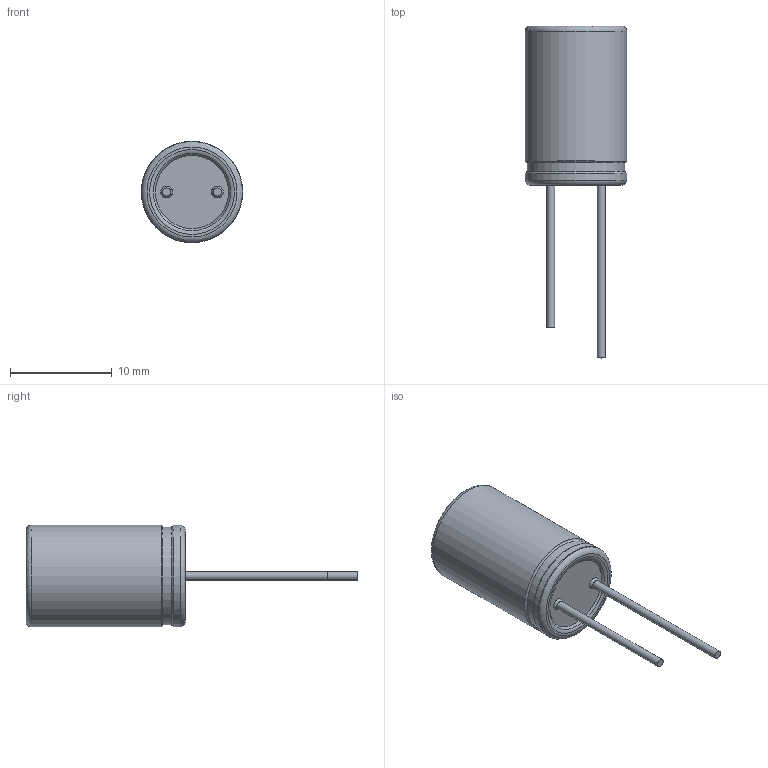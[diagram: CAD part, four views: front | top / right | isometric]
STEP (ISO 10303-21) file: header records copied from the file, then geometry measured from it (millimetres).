
FILE_DESCRIPTION(('STEP AP214'),'1');
FILE_NAME('16 SIZE CODE G-L.stp','2020-10-30T02:58:06',(' '),(' '),'Spatial InterOp 3D',' ',' ');
FILE_SCHEMA(('AUTOMOTIVE_DESIGN { 1 0 10303 214 1 1 1 1 }'));
Length unit declared in the file: millimetre
Products named in the file (2): Φ16 SIZE CODE G-L; G16
Assembly tree (1 placements, depth 2):
  Φ16 SIZE CODE G-L
    G16
Bounding box: 10 x 32.7 x 10 mm (x, y, z)
Volume: 1225.4 mm3; surface area: 725.2 mm2
Topology: 1 solids, 1 shells, 21 faces, 40 edges, 24 vertices
Faces by surface type: torus 9, cylinder 6, plane 6
Full cylindrical faces by diameter (mm): 0.8 x2, 7.2 x1, 9.65 x1, 10 x2
Entity records: 479 total; most frequent: DIRECTION 87, CARTESIAN_POINT 66, AXIS2_PLACEMENT_3D 43, ORIENTED_EDGE 42, EDGE_LOOP 39, FACE_BOUND 35, VERTEX_POINT 22, ADVANCED_FACE 21
